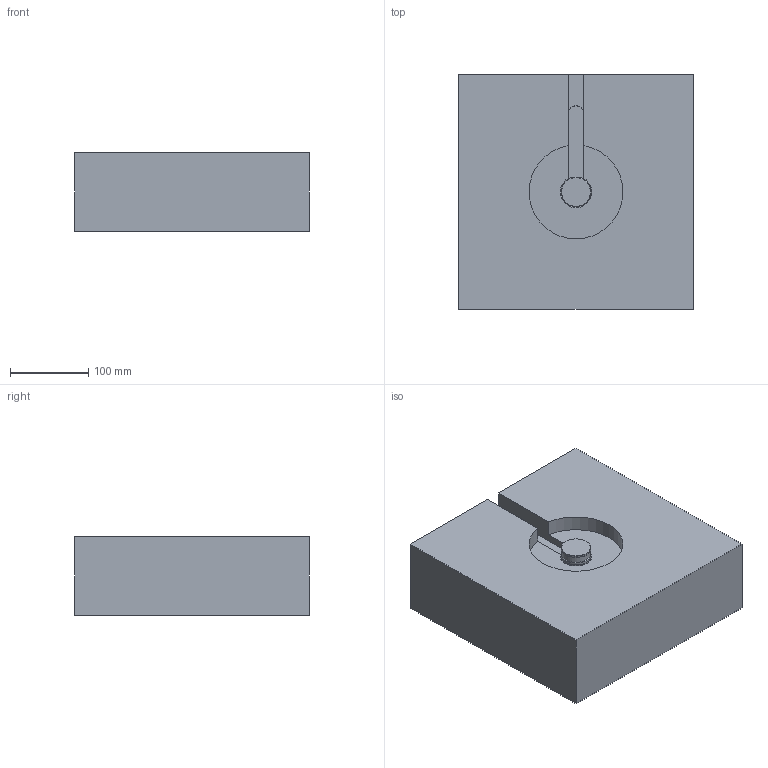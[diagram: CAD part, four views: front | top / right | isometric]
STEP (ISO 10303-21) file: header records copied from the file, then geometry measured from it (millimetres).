
FILE_DESCRIPTION( ( 'STEP AP214' ), '1' );
FILE_NAME( 'S:/PROIECTE_YUDO_2010/PROIECTE YUDO 2010 3D/BIS/YUCZ10-BIS18CC095/YUCZ10-BIS18CC095.step', '2010-02-17T11:15:13', ( ' ' ), ( ' ' ), 'XStep 1.0', ' ', ' ' );
FILE_SCHEMA( ( 'automotive_design' ) );
Length unit declared in the file: millimetre
Products named in the file (4): 1; 2; 3; 4
Bounding box: 300 x 300 x 100 mm (x, y, z)
Volume: 8707558.3 mm3; surface area: 336579.2 mm2
Topology: 4 solids, 4 shells, 115 faces, 302 edges, 201 vertices
Faces by surface type: plane 57, cylinder 40, cone 10, torus 6, bspline 1, sphere 1
Full cylindrical faces by diameter (mm): 1.7 x2, 14 x1, 17 x1, 18 x2, 18.2 x1, 18.25 x1, 24 x1, 28.62 x1, 32 x1, 37 x1, 38 x2
Entity records: 4502 total; most frequent: CARTESIAN_POINT 779, DIRECTION 572, ORIENTED_EDGE 538, EDGE_CURVE 269, AXIS2_PLACEMENT_3D 221, VERTEX_POINT 196, EDGE_LOOP 157, FACE_OUTER_BOUND 137
